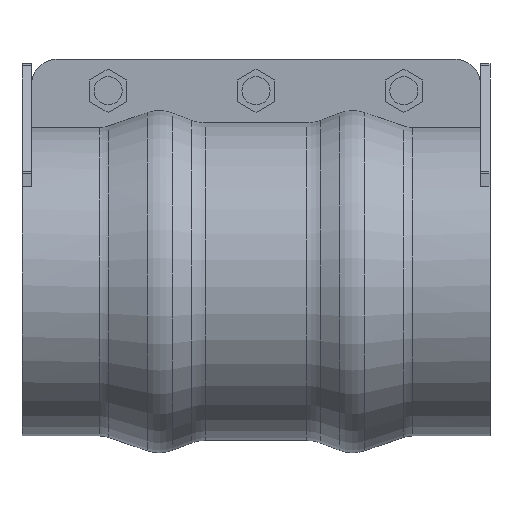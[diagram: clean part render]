
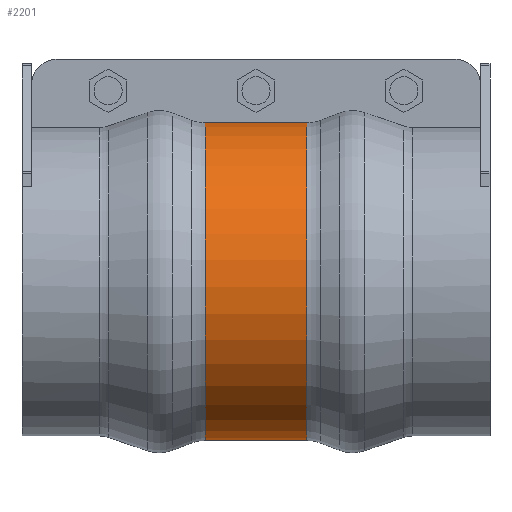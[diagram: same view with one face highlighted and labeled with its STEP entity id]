
A CAD part, front view. The second image highlights one B-rep face of the part: STEP entity #2201.
In plain terms, the highlighted cylindrical face has radius 107.868 mm (diameter 215.736 mm), a partial arc.
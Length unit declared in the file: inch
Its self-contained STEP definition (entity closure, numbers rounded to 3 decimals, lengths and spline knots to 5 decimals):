
#257=FACE_OUTER_BOUND('',#382,.T.);
#382=EDGE_LOOP('',(#1818,#1819,#1820,#1821));
#574=LINE('',#3580,#753);
#577=LINE('',#3657,#756);
#753=VECTOR('',#2893,0.3937);
#756=VECTOR('',#2904,0.3937);
#816=CIRCLE('',#2384,4.24677);
#817=CIRCLE('',#2386,4.24677);
#1017=VERTEX_POINT('',#3572);
#1018=VERTEX_POINT('',#3579);
#1029=VERTEX_POINT('',#3649);
#1030=VERTEX_POINT('',#3656);
#1290=EDGE_CURVE('',#1018,#1017,#574,.T.);
#1305=EDGE_CURVE('',#1030,#1029,#577,.T.);
#1316=EDGE_CURVE('',#1018,#1029,#816,.T.);
#1317=EDGE_CURVE('',#1017,#1030,#817,.T.);
#1818=ORIENTED_EDGE('',*,*,#1290,.T.);
#1819=ORIENTED_EDGE('',*,*,#1317,.T.);
#1820=ORIENTED_EDGE('',*,*,#1305,.T.);
#1821=ORIENTED_EDGE('',*,*,#1316,.F.);
#1994=CYLINDRICAL_SURFACE('',#2385,4.24677);
#2201=ADVANCED_FACE('',(#257),#1994,.T.);
#2384=AXIS2_PLACEMENT_3D('',#3701,#2925,#2926);
#2385=AXIS2_PLACEMENT_3D('',#3702,#2927,#2928);
#2386=AXIS2_PLACEMENT_3D('',#3703,#2929,#2930);
#2893=DIRECTION('',(-1.,0.,0.));
#2904=DIRECTION('',(1.,0.,0.));
#2925=DIRECTION('center_axis',(1.,0.,0.));
#2926=DIRECTION('ref_axis',(0.,0.,-1.));
#2927=DIRECTION('center_axis',(1.,0.,0.));
#2928=DIRECTION('ref_axis',(0.,0.,
-1.));
#2929=DIRECTION('center_axis',(1.,0.,0.));
#2930=DIRECTION('ref_axis',(0.,0.,-1.));
#3572=CARTESIAN_POINT('',(-1.35516,-0.3125,4.23526));
#3579=CARTESIAN_POINT('',(1.35516,-0.3125,4.23526));
#3580=CARTESIAN_POINT('',(0.,-0.3125,4.23526));
#3649=CARTESIAN_POINT('',(1.35516,0.3125,4.23526));
#3656=CARTESIAN_POINT('',(-1.35516,0.3125,4.23526));
#3657=CARTESIAN_POINT('',(0.,0.3125,4.23526));
#3701=CARTESIAN_POINT('Origin',(1.35516,0.,0.));
#3702=CARTESIAN_POINT('Origin',(0.,0.,0.));
#3703=CARTESIAN_POINT('Origin',(-1.35516,0.,
0.));
